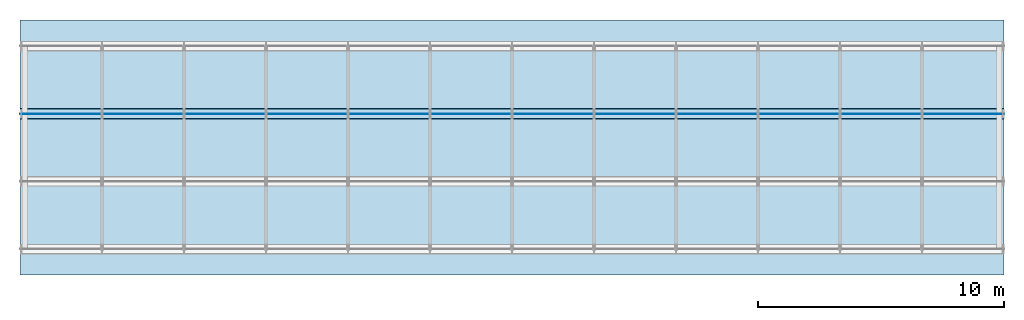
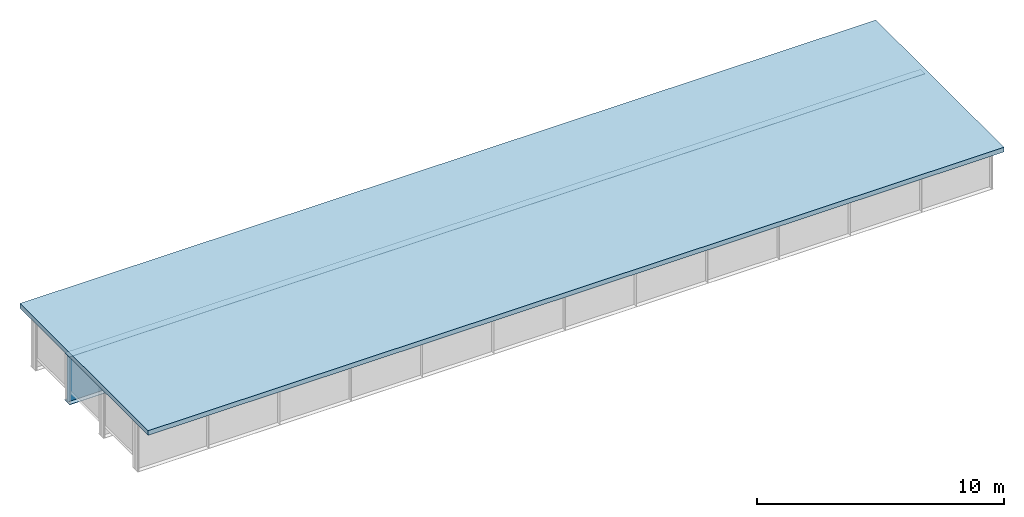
# One storey, part 9 of 13: 3 plates, 1 slab.
"""IFC4 building model written with IfcOpenShell, lengths in metres."""

from ifc_helpers import new_model, si_unit, frame, origin, origin_with_axes, origin_2d_with_axis, place, context, subcontext, project, spatial, polyline, rectangle, outline, extrude, element, save


model = new_model("IFC4")

# Units and contexts
model_context = context("Model", 3, precision=1e-05, world=origin())
body_context = subcontext(model_context, "Body", "Model", "MODEL_VIEW")
ifc_project = project(units=[si_unit("LENGTHUNIT", "METRE"), si_unit("AREAUNIT", "SQUARE_METRE"), si_unit("VOLUMEUNIT", "CUBIC_METRE"), si_unit("PLANEANGLEUNIT", "RADIAN")], contexts=[model_context])

# Site, building, storey
site_placement = place(None, origin_with_axes())
site = spatial("IfcSite", under=ifc_project, at=site_placement, Name="Default Site")
building_placement = place(site_placement, origin_with_axes())
building = spatial("IfcBuilding", under=site, at=building_placement, Name="Bridge Structure")
storey_placement = place(building_placement, origin_with_axes())
storey = spatial("IfcBuildingStorey", under=building, at=storey_placement, Name="Superstructure")

# Plates
plate_1_placement = place(storey_placement, frame((0.0, 1.375, 0.0), z_axis=(1.0, 0.0, 0.0), x_axis=(0.0, 1.0, 0.0)))
element("IfcPlate", 1, at=plate_1_placement, inside=storey, Name="Girder Web 3", context=body_context, shape_type="SweptSolid", body=[
    extrude(rectangle(XDim=0.02, YDim=2.31, at=origin_2d_with_axis()), origin_with_axes(), (0.0, 0.0, 1.0), 40.0),
])
plate_2_placement = place(storey_placement, frame((0.0, 1.375, 1.164), z_axis=(1.0, 0.0, 0.0), x_axis=(0.0, 1.0, 0.0)))
element("IfcPlate", 2, at=plate_2_placement, inside=storey, Name="Top Flange 3", context=body_context, shape_type="SweptSolid", body=[
    extrude(rectangle(XDim=0.375, YDim=0.018000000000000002, at=origin_2d_with_axis()), origin_with_axes(), (0.0, 0.0, 1.0), 40.0),
])
plate_3_placement = place(storey_placement, frame((0.0, 1.375, -1.166), z_axis=(1.0, 0.0, 0.0), x_axis=(0.0, 1.0, 0.0)))
element("IfcPlate", 3, at=plate_3_placement, inside=storey, Name="Bottom Flange 3", context=body_context, shape_type="SweptSolid", body=[
    extrude(rectangle(XDim=0.425, YDim=0.022, at=origin_2d_with_axis()), origin_with_axes(), (0.0, 0.0, 1.0), 40.0),
])

# Slab
slab_placement = place(storey_placement, frame((0.0, 0.0, 1.173), z_axis=(0.0, 0.0, 1.0), x_axis=(1.0, 0.0, 0.0)))
element("IfcSlab", 4, at=slab_placement, inside=storey, Name="Deck Slab", context=body_context, shape_type="SweptSolid", body=[
    extrude(outline(polyline([(0.0, -5.1875), (40.0, -5.1875), (40.0, 5.1875), (0.0, 5.1875), (0.0, -5.1875)])), origin_with_axes(), (0.0, 0.0, 1.0), 0.23),
])

save(model, "model.ifc")
